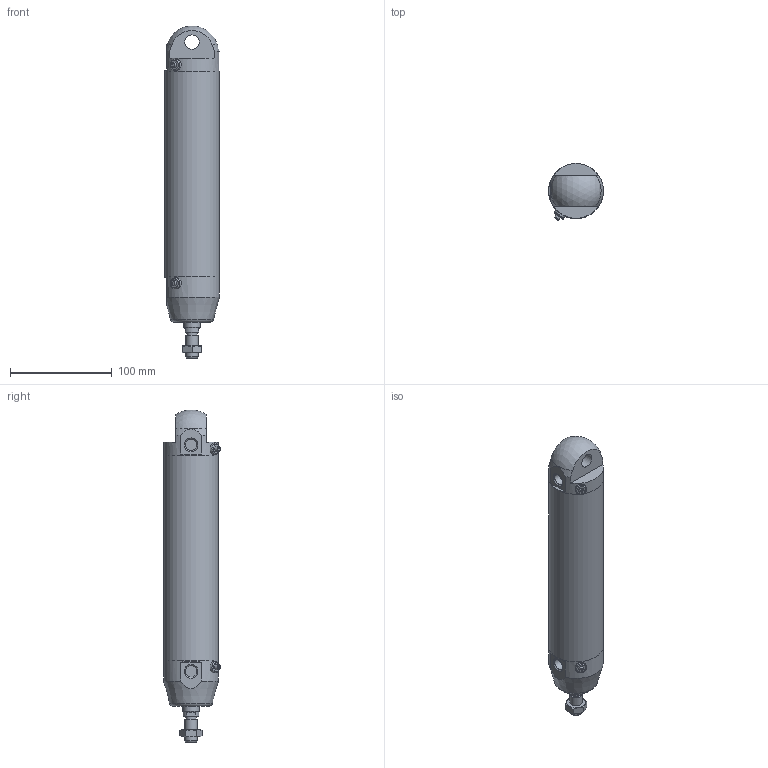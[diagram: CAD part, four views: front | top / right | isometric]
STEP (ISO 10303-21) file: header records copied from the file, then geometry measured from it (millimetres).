
FILE_DESCRIPTION(/* description */ (''),/* implementation_level */ '2;1');
FILE_NAME(/* name */ 'I:\Area Tecnica\Documenti\A-Manieri\_Inventor\12X\12X#A_###_####_#_#\12XBA_050_0160_#_#.stp',/* time_stamp */ '2015-04-24T09:18:53+02:00',/* author */ ('maniean1'),/* organization */ ('Pneumax S.p.A.'),/* preprocessor_version */ 'ST-DEVELOPER v15.2',/* originating_system */ 'Autodesk Inventor 2014',/* authorisation */ '');
FILE_SCHEMA (('AUTOMOTIVE_DESIGN { 1 0 10303 214 3 1 1 }'));
Length unit declared in the file: millimetre
Products named in the file (6): C1250_619-0160; 12X50_614; 12X50_607; S12X50_0160; 12X_50_11; 12XBA_050_0160_#_#
Bounding box: 54 x 55.88 x 326.83 mm (x, y, z)
Volume: 339304.3 mm3; surface area: 114317.2 mm2
Topology: 5 solids, 5 shells, 77 faces, 168 edges, 109 vertices
Faces by surface type: plane 43, cylinder 18, cone 12, torus 3, sphere 1
Full cylindrical faces by diameter (mm): 5 x2, 10.2 x1, 11 x2, 11.4 x2, 12 x2, 14 x2, 15.6 x1, 16 x1, 50 x2, 54 x3
Entity records: 2072 total; most frequent: CARTESIAN_POINT 428, DIRECTION 346, ORIENTED_EDGE 260, AXIS2_PLACEMENT_3D 152, EDGE_CURVE 130, EDGE_LOOP 122, VERTEX_POINT 100, ADVANCED_FACE 77
